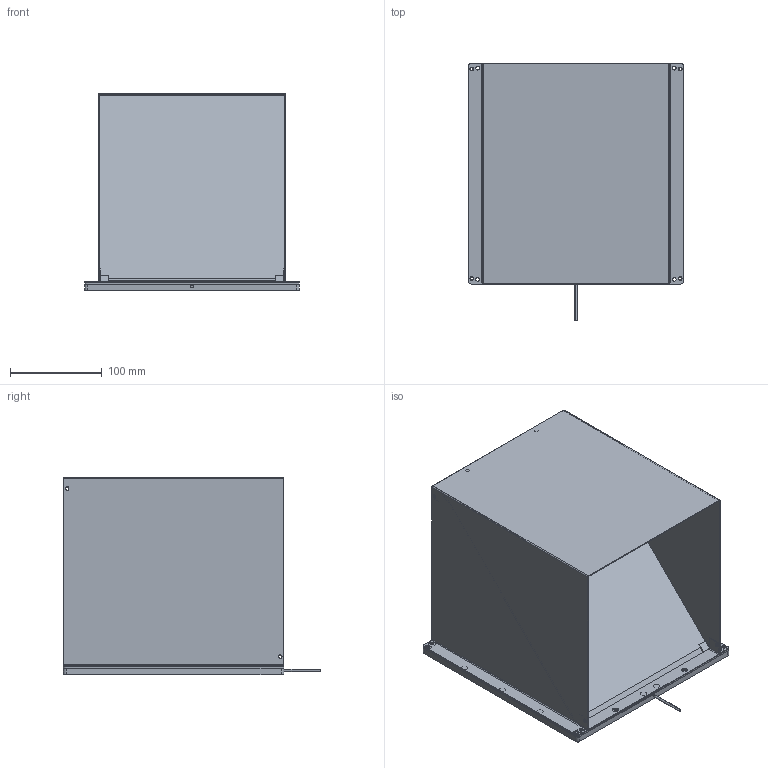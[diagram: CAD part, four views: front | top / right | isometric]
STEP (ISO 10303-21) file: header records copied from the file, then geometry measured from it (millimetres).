
FILE_DESCRIPTION (( 'STEP AP214' ), '1' );
FILE_NAME ('3DEE_STD_OAW200x200SLLUB.STEP', '2019-11-08T10:11:04', ( '' ), ( '' ), 'SwSTEP 2.0', 'SolidWorks 2012', '' );
FILE_SCHEMA (( 'AUTOMOTIVE_DESIGN' ));
Length unit declared in the file: millimetre
Products named in the file (1): 3DEE_STD_OAW200x200SLLUB
Bounding box: 234.02 x 280 x 214.5 mm (x, y, z)
Surface area: 617614.4 mm2 (no closed solid volume)
Topology: 0 solids, 9 shells, 188 faces, 716 edges, 514 vertices
Faces by surface type: cylinder 116, plane 54, cone 18
Entity records: 9849 total; most frequent: CARTESIAN_POINT 1482, DIRECTION 1410, ORIENTED_EDGE 1140, EDGE_CURVE 701, AXIS2_PLACEMENT_3D 548, VERTEX_POINT 504, CIRCLE 359, LINE 314
